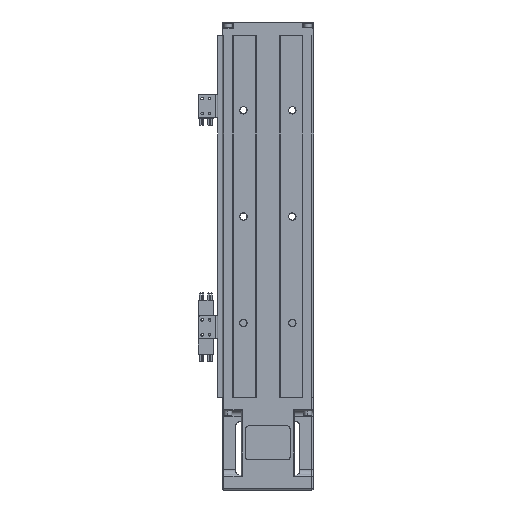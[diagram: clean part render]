
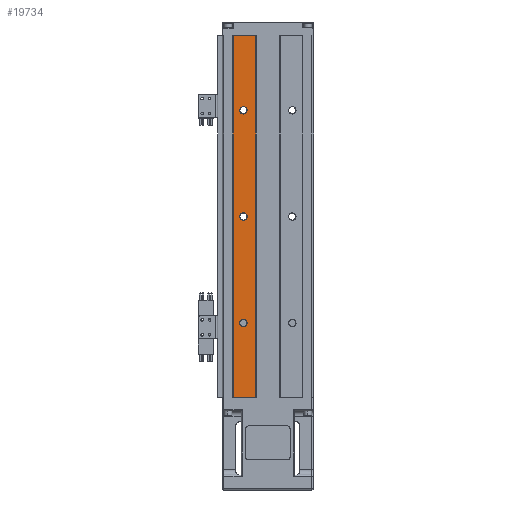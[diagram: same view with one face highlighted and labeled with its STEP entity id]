
A CAD part, front view. The second image highlights one B-rep face of the part: STEP entity #19734.
In plain terms, the highlighted planar face has unit normal (0, -1, 0).
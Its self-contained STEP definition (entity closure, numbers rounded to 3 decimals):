
#187 = VERTEX_POINT ( 'NONE', #33602 ) ;
#708 = EDGE_CURVE ( 'NONE', #33910, #40613, #24541, .T. ) ;
#1315 = DIRECTION ( 'NONE',  ( 0., 1., 0. ) ) ;
#1680 = ORIENTED_EDGE ( 'NONE', *, *, #17257, .T. ) ;
#4070 = CARTESIAN_POINT ( 'NONE',  ( -23., 0., 166.5 ) ) ;
#5263 = VERTEX_POINT ( 'NONE', #32074 ) ;
#5786 = ORIENTED_EDGE ( 'NONE', *, *, #46711, .T. ) ;
#6495 = ORIENTED_EDGE ( 'NONE', *, *, #708, .F. ) ;
#6986 = CARTESIAN_POINT ( 'NONE',  ( -23., 0., 170. ) ) ;
#7212 = DIRECTION ( 'NONE',  ( 0., 0., -1. ) ) ;
#7394 = CIRCLE ( 'NONE', #23240, 3.5 ) ;
#8412 = CARTESIAN_POINT ( 'NONE',  ( -11.5, 0., 0. ) ) ;
#8967 = PLANE ( 'NONE',  #12633 ) ;
#9566 = CARTESIAN_POINT ( 'NONE',  ( -23., 0., 273.5 ) ) ;
#9885 = CARTESIAN_POINT ( 'NONE',  ( -23., 0., 170. ) ) ;
#10099 = DIRECTION ( 'NONE',  ( 0., 0., -1. ) ) ;
#10257 = DIRECTION ( 'NONE',  ( 0., 1., 0. ) ) ;
#10872 = AXIS2_PLACEMENT_3D ( 'NONE', #38028, #22049, #7212 ) ;
#11050 = CIRCLE ( 'NONE', #10872, 3.5 ) ;
#12553 = CIRCLE ( 'NONE', #18502, 3.5 ) ;
#12633 = AXIS2_PLACEMENT_3D ( 'NONE', #24817, #39753, #28703 ) ;
#12962 = DIRECTION ( 'NONE',  ( 0., 0., 1. ) ) ;
#13115 = CARTESIAN_POINT ( 'NONE',  ( -32.5, 0., 340. ) ) ;
#13131 = VERTEX_POINT ( 'NONE', #16068 ) ;
#14755 = AXIS2_PLACEMENT_3D ( 'NONE', #9885, #48985, #48294 ) ;
#14965 = EDGE_CURVE ( 'NONE', #13131, #187, #49649, .T. ) ;
#15715 = ORIENTED_EDGE ( 'NONE', *, *, #14965, .T. ) ;
#16068 = CARTESIAN_POINT ( 'NONE',  ( -11.5, 0., 340. ) ) ;
#16703 = CARTESIAN_POINT ( 'NONE',  ( -11.5, 0., 340. ) ) ;
#17257 = EDGE_CURVE ( 'NONE', #46531, #31096, #47482, .T. ) ;
#17305 = CARTESIAN_POINT ( 'NONE',  ( -23., 0., 270. ) ) ;
#17835 = FACE_BOUND ( 'NONE', #49243, .T. ) ;
#18502 = AXIS2_PLACEMENT_3D ( 'NONE', #49192, #10257, #10099 ) ;
#18592 = VERTEX_POINT ( 'NONE', #9566 ) ;
#19026 = VECTOR ( 'NONE', #25241, 1000. ) ;
#19691 = CARTESIAN_POINT ( 'NONE',  ( -23., 0., 173.5 ) ) ;
#19734 = ADVANCED_FACE ( 'NONE', ( #37082, #22695, #28096, #17835 ), #8967, .T. ) ;
#19745 = DIRECTION ( 'NONE',  ( 0., 1., 0. ) ) ;
#20886 = DIRECTION ( 'NONE',  ( -1., 0., 0. ) ) ;
#21199 = CARTESIAN_POINT ( 'NONE',  ( 43., 0., 340. ) ) ;
#22049 = DIRECTION ( 'NONE',  ( 0., 1., 0. ) ) ;
#22695 = FACE_OUTER_BOUND ( 'NONE', #36706, .T. ) ;
#23240 = AXIS2_PLACEMENT_3D ( 'NONE', #32500, #1315, #47529 ) ;
#24541 = LINE ( 'NONE', #44345, #37765 ) ;
#24817 = CARTESIAN_POINT ( 'NONE',  ( 43., 0., 340. ) ) ;
#25241 = DIRECTION ( 'NONE',  ( -1., 0., 0. ) ) ;
#26965 = CIRCLE ( 'NONE', #44683, 3.5 ) ;
#27253 = EDGE_LOOP ( 'NONE', ( #5786, #28335 ) ) ;
#28096 = FACE_BOUND ( 'NONE', #27253, .T. ) ;
#28335 = ORIENTED_EDGE ( 'NONE', *, *, #34377, .T. ) ;
#28561 = VERTEX_POINT ( 'NONE', #34837 ) ;
#28703 = DIRECTION ( 'NONE',  ( 0., 0., -1. ) ) ;
#28947 = EDGE_CURVE ( 'NONE', #34473, #28561, #11050, .T. ) ;
#29253 = ORIENTED_EDGE ( 'NONE', *, *, #39893, .T. ) ;
#29323 = EDGE_CURVE ( 'NONE', #13131, #33910, #32122, .T. ) ;
#30508 = EDGE_LOOP ( 'NONE', ( #29253, #1680 ) ) ;
#31096 = VERTEX_POINT ( 'NONE', #4070 ) ;
#31396 = CARTESIAN_POINT ( 'NONE',  ( -23., 0., 73.5 ) ) ;
#31751 = EDGE_CURVE ( 'NONE', #28561, #34473, #7394, .T. ) ;
#32074 = CARTESIAN_POINT ( 'NONE',  ( -23., 0., 266.5 ) ) ;
#32122 = LINE ( 'NONE', #16703, #35077 ) ;
#32500 = CARTESIAN_POINT ( 'NONE',  ( -23., 0., 70. ) ) ;
#33602 = CARTESIAN_POINT ( 'NONE',  ( -32.5, 0., 340. ) ) ;
#33776 = VECTOR ( 'NONE', #12962, 1000. ) ;
#33910 = VERTEX_POINT ( 'NONE', #8412 ) ;
#34377 = EDGE_CURVE ( 'NONE', #18592, #5263, #12553, .T. ) ;
#34473 = VERTEX_POINT ( 'NONE', #31396 ) ;
#34837 = CARTESIAN_POINT ( 'NONE',  ( -23., 0., 66.5 ) ) ;
#35077 = VECTOR ( 'NONE', #47578, 1000. ) ;
#36706 = EDGE_LOOP ( 'NONE', ( #15715, #41753, #6495, #45110 ) ) ;
#37082 = FACE_BOUND ( 'NONE', #30508, .T. ) ;
#37765 = VECTOR ( 'NONE', #20886, 1000. ) ;
#38028 = CARTESIAN_POINT ( 'NONE',  ( -23., 0., 70. ) ) ;
#38532 = LINE ( 'NONE', #13115, #33776 ) ;
#38678 = CIRCLE ( 'NONE', #39225, 3.5 ) ;
#39225 = AXIS2_PLACEMENT_3D ( 'NONE', #6986, #19745, #41375 ) ;
#39349 = CARTESIAN_POINT ( 'NONE',  ( -32.5, 0., 0. ) ) ;
#39753 = DIRECTION ( 'NONE',  ( 0., -1., 0. ) ) ;
#39893 = EDGE_CURVE ( 'NONE', #31096, #46531, #38678, .T. ) ;
#40171 = DIRECTION ( 'NONE',  ( 0., 1., 0. ) ) ;
#40613 = VERTEX_POINT ( 'NONE', #39349 ) ;
#40752 = EDGE_CURVE ( 'NONE', #40613, #187, #38532, .T. ) ;
#41375 = DIRECTION ( 'NONE',  ( 0., 0., -1. ) ) ;
#41446 = ORIENTED_EDGE ( 'NONE', *, *, #28947, .T. ) ;
#41753 = ORIENTED_EDGE ( 'NONE', *, *, #40752, .F. ) ;
#43988 = DIRECTION ( 'NONE',  ( 0., 0., -1. ) ) ;
#44345 = CARTESIAN_POINT ( 'NONE',  ( 43., 0., 0. ) ) ;
#44683 = AXIS2_PLACEMENT_3D ( 'NONE', #17305, #40171, #43988 ) ;
#45110 = ORIENTED_EDGE ( 'NONE', *, *, #29323, .F. ) ;
#46531 = VERTEX_POINT ( 'NONE', #19691 ) ;
#46552 = ORIENTED_EDGE ( 'NONE', *, *, #31751, .T. ) ;
#46711 = EDGE_CURVE ( 'NONE', #5263, #18592, #26965, .T. ) ;
#47482 = CIRCLE ( 'NONE', #14755, 3.5 ) ;
#47529 = DIRECTION ( 'NONE',  ( 0., 0., -1. ) ) ;
#47578 = DIRECTION ( 'NONE',  ( 0., 0., -1. ) ) ;
#48294 = DIRECTION ( 'NONE',  ( 0., 0., -1. ) ) ;
#48985 = DIRECTION ( 'NONE',  ( 0., 1., 0. ) ) ;
#49192 = CARTESIAN_POINT ( 'NONE',  ( -23., 0., 270. ) ) ;
#49243 = EDGE_LOOP ( 'NONE', ( #46552, #41446 ) ) ;
#49649 = LINE ( 'NONE', #21199, #19026 ) ;
